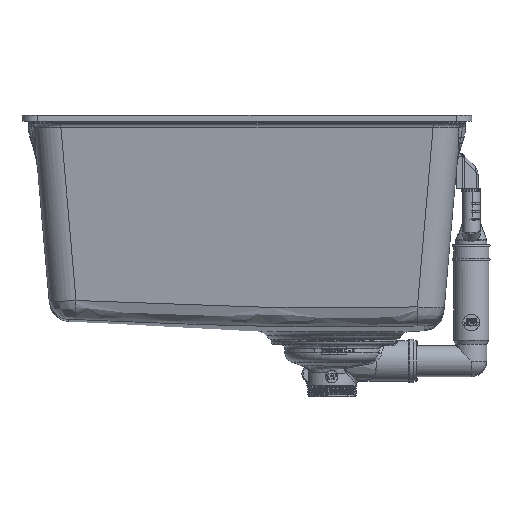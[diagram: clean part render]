
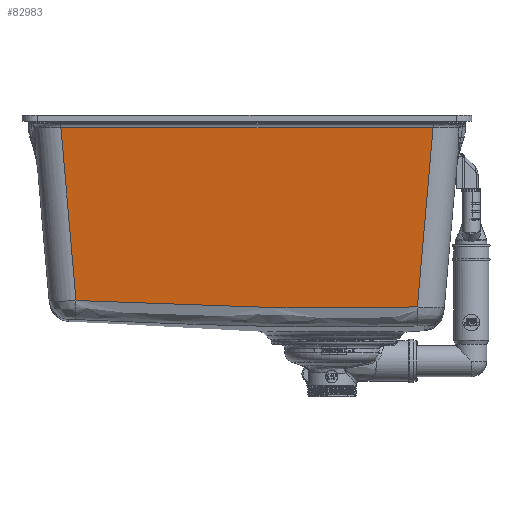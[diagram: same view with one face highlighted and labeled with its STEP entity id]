
A CAD part, front view. The second image highlights one B-rep face of the part: STEP entity #82983.
In plain terms, the highlighted planar face has unit normal (0, -0.996, -0.087).
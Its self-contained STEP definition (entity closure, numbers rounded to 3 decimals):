
#2538=B_SPLINE_CURVE_WITH_KNOTS('',3,(#117019,#117020,#117021,#117022,#117023,
#117024,#117025),.UNSPECIFIED.,.F.,.F.,(4,1,1,1,4),(0.,4.694,
14.083,23.472,32.861),.UNSPECIFIED.);
#5141=PLANE('',#88426);
#7865=FACE_OUTER_BOUND('',#12694,.T.);
#12694=EDGE_LOOP('',(#57249,#57250,#57251,#57252));
#17764=LINE('',#115379,#25331);
#17771=LINE('',#115975,#25338);
#17799=LINE('',#116885,#25366);
#25331=VECTOR('',#94825,10.);
#25338=VECTOR('',#94908,10.);
#25366=VECTOR('',#95082,10.);
#35360=VERTEX_POINT('',#115361);
#35363=VERTEX_POINT('',#115377);
#35396=VERTEX_POINT('',#115974);
#35452=VERTEX_POINT('',#116877);
#43740=EDGE_CURVE('',#35363,#35360,#17764,.T.);
#43802=EDGE_CURVE('',#35396,#35360,#17771,.T.);
#43909=EDGE_CURVE('',#35363,#35452,#17799,.T.);
#43917=EDGE_CURVE('',#35396,#35452,#2538,.T.);
#57249=ORIENTED_EDGE('',*,*,#43740,.F.);
#57250=ORIENTED_EDGE('',*,*,#43909,.T.);
#57251=ORIENTED_EDGE('',*,*,#43917,.F.);
#57252=ORIENTED_EDGE('',*,*,#43802,.T.);
#82983=ADVANCED_FACE('',(#7865),#5141,.T.);
#88426=AXIS2_PLACEMENT_3D('',#117961,#95204,#95205);
#94825=DIRECTION('',(1.,0.,0.));
#94908=DIRECTION('',(0.087,-0.087,0.992));
#95082=DIRECTION('',(0.087,0.087,-0.992));
#95204=DIRECTION('center_axis',(0.,-0.996,
-0.087));
#95205=DIRECTION('ref_axis',(-1.,0.,0.));
#115361=CARTESIAN_POINT('',(179.063,-189.964,-12.108));
#115377=CARTESIAN_POINT('',(-179.063,-189.964,-12.108));
#115379=CARTESIAN_POINT('',(100.,-189.964,-12.108));
#115974=CARTESIAN_POINT('',(163.967,-174.868,-184.646));
#115975=CARTESIAN_POINT('',(178.832,-189.733,-14.747));
#116877=CARTESIAN_POINT('',(-164.51,-175.411,-178.449));
#116885=CARTESIAN_POINT('',(-178.719,-189.62,-16.04));
#117019=CARTESIAN_POINT('Ctrl Pts',(163.967,-174.868,
-184.646));
#117020=CARTESIAN_POINT('Ctrl Pts',(148.324,-174.835,
-185.025));
#117021=CARTESIAN_POINT('Ctrl Pts',(101.386,-174.756,
-185.93));
#117022=CARTESIAN_POINT('Ctrl Pts',(23.137,-174.794,
-185.496));
#117023=CARTESIAN_POINT('Ctrl Pts',(-70.708,-175.058,
-182.48));
#117024=CARTESIAN_POINT('Ctrl Pts',(-133.244,-175.289,
-179.84));
#117025=CARTESIAN_POINT('Ctrl Pts',(-164.51,-175.411,
-178.449));
#117961=CARTESIAN_POINT('Origin',(200.,-190.977,-0.523));
